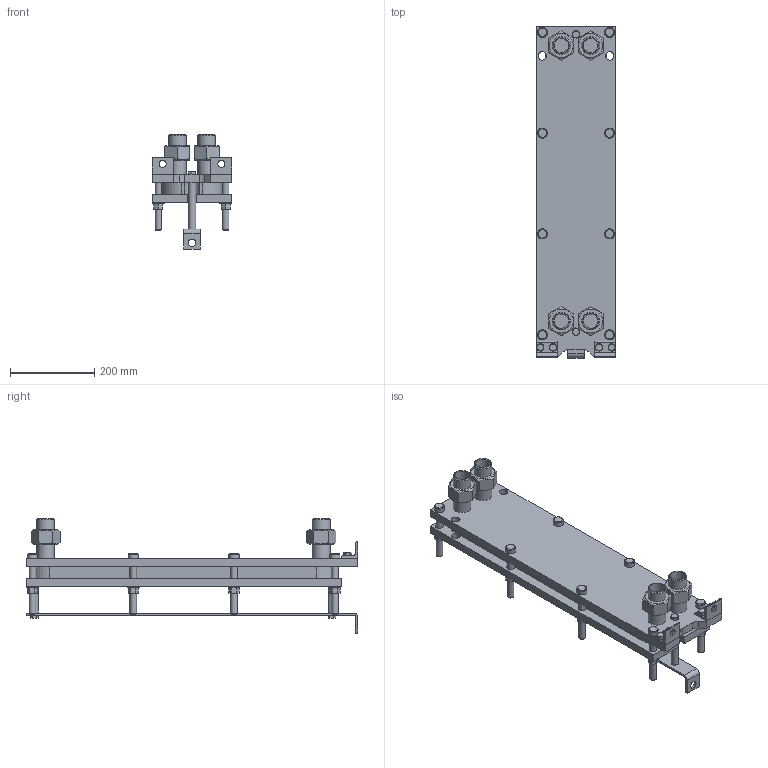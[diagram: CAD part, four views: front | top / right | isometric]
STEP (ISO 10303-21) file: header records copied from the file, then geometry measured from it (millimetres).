
FILE_DESCRIPTION(/* description */ (''),/* implementation_level */ '2;1');
FILE_NAME(/* name */ 'C:\Users\zhuro\Desktop\ENCO\TO\ЭН-008\ЭН-0,5-008-9-1.stp',/* time_stamp */ '2022-06-06T10:45:42+03:00',/* author */ ('zhuro'),/* organization */ (''),/* preprocessor_version */ 'ST-DEVELOPER v18.1',/* originating_system */ 'Autodesk Inventor 2022',/* authorisation */ '');
FILE_SCHEMA (('AUTOMOTIVE_DESIGN { 1 0 10303 214 3 1 1 }'));
Length unit declared in the file: millimetre
Products named in the file (1): ЭН-0,5-008-9-1
Bounding box: 190 x 790 x 272.2 mm (x, y, z)
Volume: 9431456.7 mm3; surface area: 1251771.2 mm2
Topology: 40 solids, 40 shells, 428 faces, 924 edges, 606 vertices
Faces by surface type: plane 273, cylinder 109, cone 40, torus 6
Full cylindrical faces by diameter (mm): 12 x6, 14 x2, 16 x20, 17 x8, 18 x19, 20 x5, 24 x8, 28 x8, 34.3 x8, 42.3 x8
Entity records: 15843 total; most frequent: CARTESIAN_POINT 5991, DIRECTION 1984, ORIENTED_EDGE 1848, EDGE_CURVE 924, AXIS2_PLACEMENT_3D 715, VERTEX_POINT 606, LINE 554, VECTOR 554
